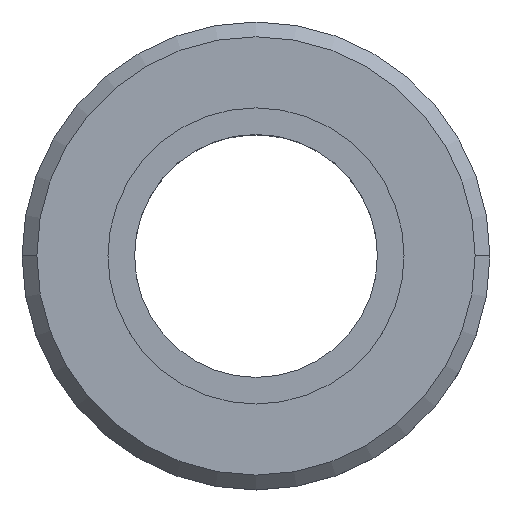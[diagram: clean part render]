
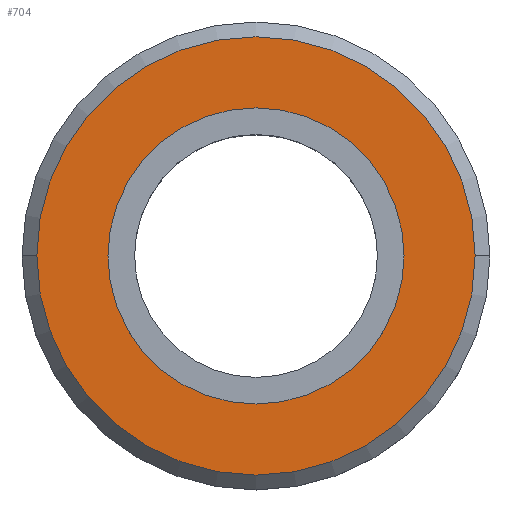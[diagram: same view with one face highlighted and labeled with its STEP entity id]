
A CAD part, top view. The second image highlights one B-rep face of the part: STEP entity #704.
In plain terms, the highlighted planar face has unit normal (0, 0, 1).
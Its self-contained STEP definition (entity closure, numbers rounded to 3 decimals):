
#29=CARTESIAN_POINT('',(0.,0.,0.));
#30=DIRECTION('',(0.,0.,-1.));
#31=DIRECTION('',(1.,0.,0.));
#32=AXIS2_PLACEMENT_3D('',#29,#30,#31);
#34=CARTESIAN_POINT('',(0.,0.,0.));
#35=DIRECTION('',(0.,0.,1.));
#36=DIRECTION('',(1.,0.,0.));
#37=AXIS2_PLACEMENT_3D('',#34,#35,#36);
#39=CARTESIAN_POINT('',(0.,0.,0.));
#40=DIRECTION('',(0.,0.,-1.));
#41=DIRECTION('',(-1.,0.,0.));
#42=AXIS2_PLACEMENT_3D('',#39,#40,#41);
#44=CARTESIAN_POINT('',(0.,0.,0.));
#45=DIRECTION('',(0.,0.,-1.));
#46=DIRECTION('',(1.,0.,0.));
#47=AXIS2_PLACEMENT_3D('',#44,#45,#46);
#516=CARTESIAN_POINT('',(5.,0.,0.));
#518=VERTEX_POINT('',#516);
#520=CARTESIAN_POINT('',(-5.,0.,0.));
#522=VERTEX_POINT('',#520);
#639=CARTESIAN_POINT('',(-7.4,0.,0.));
#640=CARTESIAN_POINT('',(7.4,0.,0.));
#641=VERTEX_POINT('',#639);
#642=VERTEX_POINT('',#640);
#689=CARTESIAN_POINT('',(0.,0.,0.));
#690=DIRECTION('',(0.,0.,1.));
#691=DIRECTION('',(-1.,0.,0.));
#692=AXIS2_PLACEMENT_3D('',#689,#690,#691);
#693=PLANE('',#692);
#695=ORIENTED_EDGE('',*,*,#694,.T.);
#697=ORIENTED_EDGE('',*,*,#696,.T.);
#698=EDGE_LOOP('',(#695,#697));
#699=FACE_OUTER_BOUND('',#698,.F.);
#700=ORIENTED_EDGE('',*,*,#682,.F.);
#701=ORIENTED_EDGE('',*,*,#671,.T.);
#702=EDGE_LOOP('',(#700,#701));
#703=FACE_BOUND('',#702,.F.);
#704=ADVANCED_FACE('',(#699,#703),#693,.T.);
#33=CIRCLE('',#32,5.);
#38=CIRCLE('',#37,5.);
#43=CIRCLE('',#42,7.4);
#48=CIRCLE('',#47,7.4);
#671=EDGE_CURVE('',#518,#522,#38,.T.);
#682=EDGE_CURVE('',#518,#522,#33,.T.);
#694=EDGE_CURVE('',#641,#642,#43,.T.);
#696=EDGE_CURVE('',#642,#641,#48,.T.);
